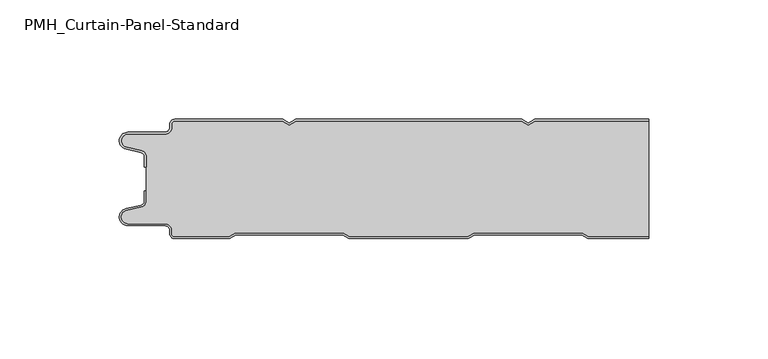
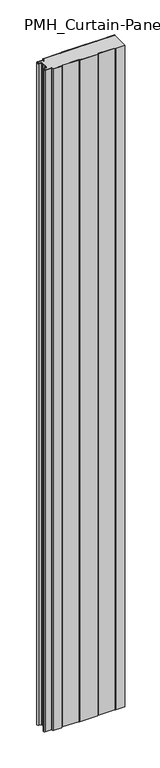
"""IFC4 building model written with IfcOpenShell, lengths in millimetres: plate geometry, PMH_Curtain-Panel-Standard : ACH_PMH_Acoustic-Sectioning-Panel_50M."""

from ifc_helpers import new_model, si_unit, point, frame_2d, origin, origin_with_axes, place, context, project, spatial, polyline, circle_curve, trimmed, segment, composite_curve, outline, extrude, source, transform, mapped, element, save


def pmh_curtain_panel_standard_5d0e5f40(model_context):
    return source(origin(), model_context, "Body", "SweptSolid", [
        extrude(outline(composite_curve([segment(trimmed(circle_curve(frame_2d((-102.0119739, -15.878557)), 2.0), [point((-100.0119739, -15.878557))], [point((-101.5620718, -13.9298169))], True, "CARTESIAN"), True, "CONTINUOUS"), segment(polyline([(-101.5620718, -13.9298169), (-107.7217978, -12.507732)]), True, "CONTINUOUS"), segment(trimmed(circle_curve(frame_2d((-106.9119739, -9.0)), 3.6), [point((-107.7217978, -12.507732))], [point((-106.9119739, -5.4))], False, "CARTESIAN"), True, "CONTINUOUS"), segment(polyline([(-106.9119739, -5.4), (-91.4119739, -5.4)]), True, "CONTINUOUS"), segment(trimmed(circle_curve(frame_2d((-91.4119739, -3.4)), 2.0), [point((-91.4119739, -5.4))], [point((-89.4119739, -3.4))], True, "CARTESIAN"), True, "CONTINUOUS"), segment(polyline([(-89.4119739, -3.4), (-89.4119739, -2.0)]), True, "CONTINUOUS"), segment(trimmed(circle_curve(frame_2d((-87.4119739, -2.0)), 2.0), [point((-89.4119739, -2.0))], [point((-87.4119739, 0.0))], False, "CARTESIAN"), True, "CONTINUOUS"), segment(polyline([(-87.4119739, 0.0), (-42.1119734, 0.0), (-39.4119739, -1.5588455), (-36.7119745, 0.0), (57.8880266, 0.0), (60.5880261, -1.5588455), (63.2880255, 0.0), (111.0119739, 0.0), (111.0119739, -0.8), (63.5023849, -0.8), (60.5880261, -2.482606), (57.6736672, -0.8), (-36.4976151, -0.8), (-39.4119739, -2.482606), (-42.3263328, -0.8), (-87.4119739, -0.8)]), True, "CONTINUOUS"), segment(trimmed(circle_curve(frame_2d((-87.4119739, -2.0)), 1.2), [point((-87.4119739, -0.8))], [point((-88.6119739, -2.0))], True, "CARTESIAN"), True, "CONTINUOUS"), segment(polyline([(-88.6119739, -2.0), (-88.6119739, -3.4)]), True, "CONTINUOUS"), segment(trimmed(circle_curve(frame_2d((-91.4119739, -3.4)), 2.8), [point((-88.6119739, -3.4))], [point((-91.4119739, -6.2))], False, "CARTESIAN"), True, "CONTINUOUS"), segment(polyline([(-91.4119739, -6.2), (-106.9119739, -6.2)]), True, "CONTINUOUS"), segment(trimmed(circle_curve(frame_2d((-106.9119739, -9.0)), 2.8), [point((-106.9119739, -6.2))], [point((-107.541837, -11.7282362))], True, "CARTESIAN"), True, "CONTINUOUS"), segment(polyline([(-107.541837, -11.7282362), (-101.3821109, -13.150321)]), True, "CONTINUOUS"), segment(trimmed(circle_curve(frame_2d((-102.0119739, -15.878557)), 2.8), [point((-101.3821109, -13.150321))], [point((-99.2119739, -15.878557))], False, "CARTESIAN"), True, "CONTINUOUS"), segment(polyline([(-99.2119739, -15.878557), (-99.2119739, -20.0), (-100.0119739, -20.0), (-100.0119739, -15.878557)]), True, "CONTINUOUS")], self_intersect=False)), origin_with_axes(), (0.0, 0.0, 1.0), 1945.7507136),
        extrude(outline(composite_curve([segment(polyline([(-99.2119739, -34.121443), (-99.2119739, -15.8785573)]), True, "CONTINUOUS"), segment(trimmed(circle_curve(frame_2d((-102.0119739, -15.8785573)), 2.8), [point((-99.2119739, -15.8785573))], [point((-101.3821109, -13.1503212))], True, "CARTESIAN"), True, "CONTINUOUS"), segment(polyline([(-101.3821109, -13.1503212), (-107.541837, -11.7282362)]), True, "CONTINUOUS"), segment(trimmed(circle_curve(frame_2d((-106.911974, -9.0)), 2.8), [point((-107.541837, -11.7282362))], [point((-106.911974, -6.2))], False, "CARTESIAN"), True, "CONTINUOUS"), segment(polyline([(-106.911974, -6.2), (-91.411974, -6.2)]), True, "CONTINUOUS"), segment(trimmed(circle_curve(frame_2d((-91.411974, -3.4)), 2.8), [point((-91.411974, -6.2))], [point((-88.611974, -3.4))], True, "CARTESIAN"), True, "CONTINUOUS"), segment(polyline([(-88.611974, -3.4), (-88.611974, -2.0)]), True, "CONTINUOUS"), segment(trimmed(circle_curve(frame_2d((-87.411974, -2.0)), 1.2), [point((-88.611974, -2.0))], [point((-87.411974, -0.8))], False, "CARTESIAN"), True, "CONTINUOUS"), segment(polyline([(-87.411974, -0.8), (-42.3263329, -0.8), (-39.411974, -2.482606), (-36.4976152, -0.8), (57.6736671, -0.8), (60.588026, -2.482606), (63.5023848, -0.8), (111.0119739, -0.8), (111.0119739, -49.2), (85.7985382, -49.2), (83.2004606, -47.7), (37.9717445, -47.7), (35.3736669, -49.2), (-14.2014618, -49.2), (-16.7995394, -47.7), (-62.0282555, -47.7), (-64.6263331, -49.2), (-87.4119739, -49.2)]), True, "CONTINUOUS"), segment(trimmed(circle_curve(frame_2d((-87.4119739, -48.0)), 1.2), [point((-87.4119739, -49.2))], [point((-88.6119739, -48.0))], False, "CARTESIAN"), True, "CONTINUOUS"), segment(polyline([(-88.6119739, -48.0), (-88.6119739, -46.5999998)]), True, "CONTINUOUS"), segment(trimmed(circle_curve(frame_2d((-91.4119739, -46.5999998)), 2.8), [point((-88.6119739, -46.5999998))], [point((-91.4119739, -43.7999998))], True, "CARTESIAN"), True, "CONTINUOUS"), segment(polyline([(-91.4119739, -43.7999998), (-106.9119739, -43.7999998)]), True, "CONTINUOUS"), segment(trimmed(circle_curve(frame_2d((-106.9119739, -41.0)), 2.7999998), [point((-106.9119739, -43.7999998))], [point((-107.5418369, -38.271764))], False, "CARTESIAN"), True, "CONTINUOUS"), segment(polyline([(-107.5418369, -38.271764), (-101.3821109, -36.8496792)]), True, "CONTINUOUS"), segment(trimmed(circle_curve(frame_2d((-102.0119739, -34.121443)), 2.8), [point((-101.3821109, -36.8496792))], [point((-99.2119739, -34.121443))], True, "CARTESIAN"), True, "CONTINUOUS")], self_intersect=False)), origin_with_axes(), (0.0, 0.0, 1.0), 1945.7507136),
        extrude(outline(composite_curve([segment(trimmed(circle_curve(frame_2d((-87.4119739, -48.0)), 2.0), [point((-87.4119739, -50.0))], [point((-89.4119739, -48.0))], False, "CARTESIAN"), True, "CONTINUOUS"), segment(polyline([(-89.4119739, -48.0), (-89.4119739, -46.6)]), True, "CONTINUOUS"), segment(trimmed(circle_curve(frame_2d((-91.4119739, -46.6)), 2.0), [point((-89.4119739, -46.6))], [point((-91.4119739, -44.6))], True, "CARTESIAN"), True, "CONTINUOUS"), segment(polyline([(-91.4119739, -44.6), (-106.9119739, -44.6)]), True, "CONTINUOUS"), segment(trimmed(circle_curve(frame_2d((-106.9119739, -41.0)), 3.6), [point((-106.9119739, -44.6))], [point((-107.7217979, -37.4922678))], False, "CARTESIAN"), True, "CONTINUOUS"), segment(polyline([(-107.7217979, -37.4922678), (-101.5620718, -36.070183)]), True, "CONTINUOUS"), segment(trimmed(circle_curve(frame_2d((-102.0119739, -34.121443)), 2.0), [point((-101.5620718, -36.070183))], [point((-100.0119739, -34.121443))], True, "CARTESIAN"), True, "CONTINUOUS"), segment(polyline([(-100.0119739, -34.121443), (-100.0119739, -30.0), (-99.2119739, -30.0), (-99.2119739, -34.121443)]), True, "CONTINUOUS"), segment(trimmed(circle_curve(frame_2d((-102.0119739, -34.121443)), 2.8), [point((-99.2119739, -34.121443))], [point((-101.3821109, -36.8496792))], False, "CARTESIAN"), True, "CONTINUOUS"), segment(polyline([(-101.3821109, -36.8496792), (-107.5418369, -38.271764)]), True, "CONTINUOUS"), segment(trimmed(circle_curve(frame_2d((-106.9119739, -41.0)), 2.8), [point((-107.5418369, -38.271764))], [point((-106.9119739, -43.8))], True, "CARTESIAN"), True, "CONTINUOUS"), segment(polyline([(-106.9119739, -43.8), (-91.4119739, -43.8)]), True, "CONTINUOUS"), segment(trimmed(circle_curve(frame_2d((-91.4119739, -46.6)), 2.8), [point((-91.4119739, -43.8))], [point((-88.6119739, -46.6))], False, "CARTESIAN"), True, "CONTINUOUS"), segment(polyline([(-88.6119739, -46.6), (-88.6119739, -48.0)]), True, "CONTINUOUS"), segment(trimmed(circle_curve(frame_2d((-87.4119739, -48.0)), 1.2), [point((-88.6119739, -48.0))], [point((-87.4119739, -49.2))], True, "CARTESIAN"), True, "CONTINUOUS"), segment(polyline([(-87.4119739, -49.2), (-64.6263331, -49.2), (-62.0282555, -47.7), (-16.7995394, -47.7), (-14.2014618, -49.2), (35.3736669, -49.2), (37.9717445, -47.7), (83.2004606, -47.7), (85.7985382, -49.2), (111.0119739, -49.2), (111.0119739, -50.0), (85.584179, -50.0), (82.9861014, -48.5), (38.1861037, -48.5), (35.5880261, -50.0), (-14.415821, -50.0), (-17.0138986, -48.5), (-61.8138963, -48.5), (-64.4119739, -50.0), (-87.4119739, -50.0)]), True, "CONTINUOUS")], self_intersect=False)), origin_with_axes(), (0.0, 0.0, 1.0), 1945.7507136),
    ])


if __name__ == "__main__":
    model = new_model("IFC4")
    model_context = context("Model", 3, world=origin())
    ifc_project = project(units=[si_unit("LENGTHUNIT", "METRE", prefix="MILLI")], contexts=[model_context])
    site = spatial("IfcSite", under=ifc_project)
    building = spatial("IfcBuilding", under=site)
    placement = place(None, origin())
    pmh_curtain_panel_standard_shape = pmh_curtain_panel_standard_5d0e5f40(model_context)
    element("IfcPlate", 1, ObjectType="PMH_Curtain-Panel-Standard : ACH_PMH_Acoustic-Sectioning-Panel_50M", at=placement, inside=building, context=model_context, shape_type="MappedRepresentation", body=[
        mapped(pmh_curtain_panel_standard_shape, transform((0.0, 0.0, 0.0), x_axis=(1.0, 0.0, 0.0), y_axis=(0.0, 1.0, 0.0), z_axis=(0.0, 0.0, 1.0))),
    ])
    save(model, "model.ifc")
